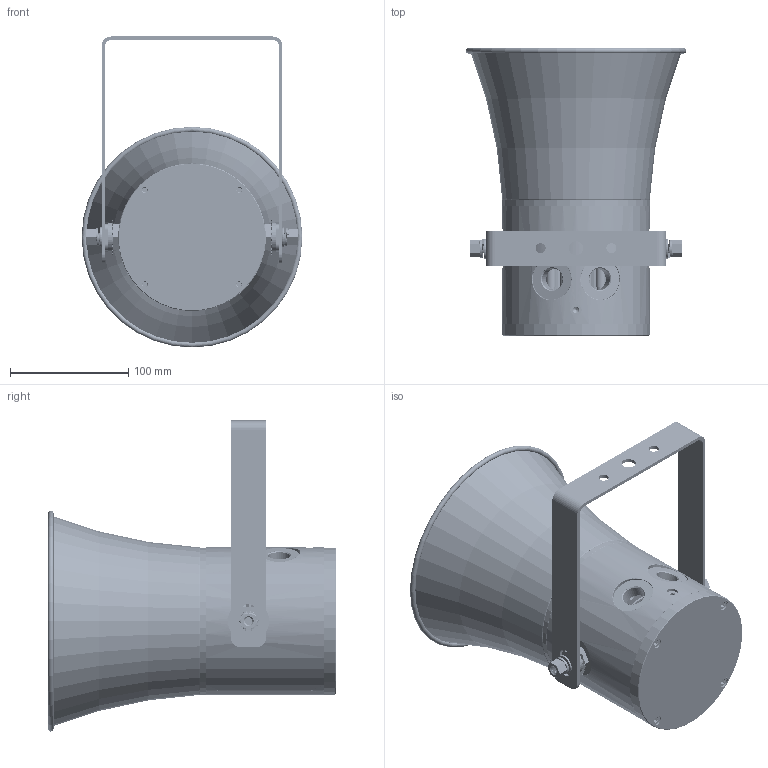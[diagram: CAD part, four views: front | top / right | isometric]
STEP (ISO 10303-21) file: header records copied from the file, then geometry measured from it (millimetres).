
FILE_DESCRIPTION((''),'2;1');
FILE_NAME('0-SD125-SOUNDER-B_ASM','2015-12-21T',('Administrator'),(''),'PRO/ENGINEER BY PARAMETRIC TECHNOLOGY CORPORATION, 2008090','PRO/ENGINEER BY PARAMETRIC TECHNOLOGY CORPORATION, 2008090','');
FILE_SCHEMA(('CONFIG_CONTROL_DESIGN'));
Length unit declared in the file: millimetre
Products named in the file (38): 55050110101; 55050110102; 55050110103; 55050110107; 50050110106; 50050180237; 50050110105; 50050110104; 51860510116; 50050110202; 50050110201; 50050110203; GTS5; 50050110204; SPWF8; SSLW8; M4-10; SANN8-1; 50050140504; 50050150505; CG; HS; 50050150506; MQ; 50050150501; 55050110108; 50050110507; 0-55050100620_ASM; PCB-50050100618; M4-W-S; M4CU-HEXAGON-POLE; TUBE-9; TUBE-7; PCB-50050100636; M4X50; PCB-SD125-01_ASM; 50050110230; 0-SD125-SOUNDER-B_ASM
Assembly tree (77 placements, depth 3):
  0-SD125-SOUNDER-B_ASM
    55050110101
    55050110102
    55050110103
    55050110107
    50050110106
    50050180237  x2
    50050110105
    50050110104
    51860510116  x8
    50050110202  x2
    50050110201  x2
    50050110203
    GTS5  x7
    50050110204  x2
    SPWF8  x2
    SSLW8  x2
    M4-10  x3
    SANN8-1  x2
    0-55050100620_ASM
      50050140504
      50050150505
      CG
      HS
      50050150506
      MQ
      50050150501
      55050110108
      50050110507
    PCB-SD125-01_ASM
      PCB-50050100618
      M4-W-S  x11
      M4CU-HEXAGON-POLE  x2
      TUBE-9  x4
      TUBE-7  x4
      PCB-50050100636
      M4X50  x2
    50050110230
Bounding box: 187 x 243.8 x 263.5 mm (x, y, z)
Volume: 979635.5 mm3; surface area: 628672.1 mm2
Topology: 75 solids, 135 shells, 4092 faces, 10599 edges, 6935 vertices
Faces by surface type: plane 2180, cylinder 1082, cone 332, extrusion 323, torus 79, bspline 78, sphere 18
Entity records: 146490 total; most frequent: CARTESIAN_POINT 65348, ORIENTED_EDGE 16922, DIRECTION 15420, EDGE_CURVE 8581, VECTOR 5752, VERTEX_POINT 5689, LINE 5429, AXIS2_PLACEMENT_3D 4834
